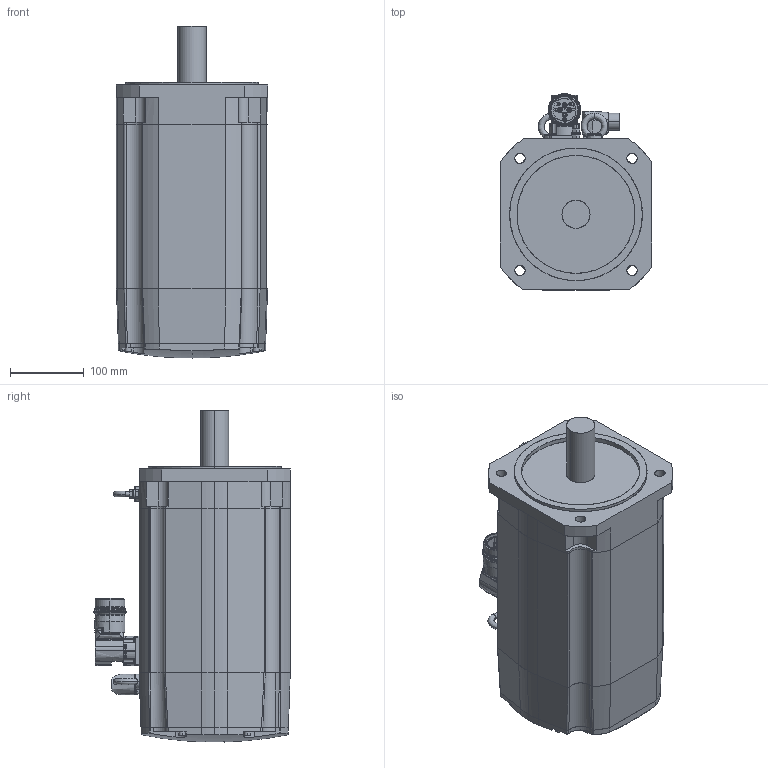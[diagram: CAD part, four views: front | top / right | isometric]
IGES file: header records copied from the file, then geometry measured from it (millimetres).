
Start section: SolidWorks IGES file using analytic representation for surfaces
Global section: file name: C:\PDM\SW-SAP\AA-IGES\SH32051x0xF2100.IGS; native system: SolidWorks 2010; preprocessor: SolidWorks 2010; author: SESA21951; date: 131129.141111; units: millimetre
Bounding box: 205 x 266.5 x 450.33 mm (x, y, z)
Surface area: 607386.2 mm2 (no closed solid volume)
Topology: 0 solids, 0 shells, 776 faces, 10342 edges, 10323 vertices
Faces by surface type: bspline 406, revolution 370
